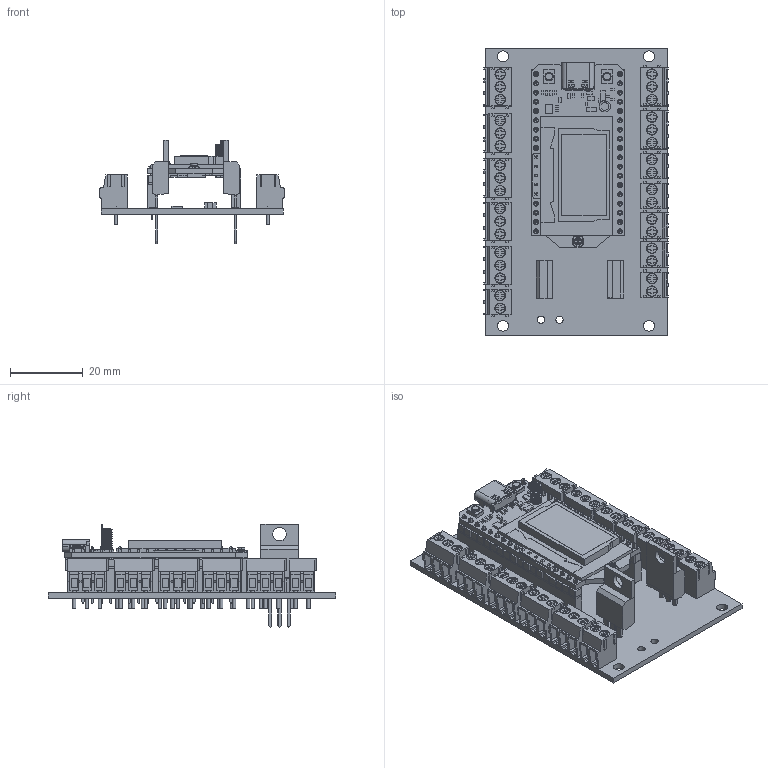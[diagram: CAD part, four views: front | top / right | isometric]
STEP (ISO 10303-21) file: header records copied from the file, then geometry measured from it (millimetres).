
FILE_DESCRIPTION(('KiCad electronic assembly'),'2;1');
FILE_NAME('SubBoard.step','2025-05-11T17:32:42',('Pcbnew'),('Kicad'), 'Open CASCADE STEP processor 7.8','KiCad to STEP converter','Unknown' );
FILE_SCHEMA(('AUTOMOTIVE_DESIGN { 1 0 10303 214 1 1 1 1 }'));
Length unit declared in the file: millimetre
Products named in the file (18): SubBoard 1; WIFI KIT 32 -V3---3DModel-STEP-269445; WIFI KIT 32 (V3); PinSocket_1x18_P2.54mm_Vertical; PinSocket_1x18_P254mm_Vertical; PinHeader_1x18_P2.54mm_Vertical; PinHeader_1x18_P254mm_Vertical; TerminalBlock_Phoenix_PT-1,5-3-3.5-H_1x03_P3.50mm_Horizontal; TerminalBlock_Phoenix_PT_15_3_35_H_1x03_P350mm_Horizontal; Resistor-1206; 1206; TerminalBlock_Phoenix_PT-1,5-2-3.5-H_1x02_P3.50mm_Horizontal; TerminalBlock_Phoenix_PT_15_2_35_H_1x02_P350mm_Horizontal; TO-220-3_Vertical; C_1206; Unnamed; _autosave-SubBoard_PCB
Assembly tree (33 placements, depth 3):
  SubBoard 1
    WIFI KIT 32 -V3---3DModel-STEP-269445
      WIFI KIT 32 (V3)
    PinSocket_1x18_P2.54mm_Vertical  x2
      PinSocket_1x18_P254mm_Vertical
    PinHeader_1x18_P2.54mm_Vertical  x2
      PinHeader_1x18_P254mm_Vertical
    TerminalBlock_Phoenix_PT-1,5-3-3.5-H_1x03_P3.50mm_Horizontal  x7
      TerminalBlock_Phoenix_PT_15_3_35_H_1x03_P350mm_Horizontal
    Resistor-1206  x3
      1206
    TerminalBlock_Phoenix_PT-1,5-2-3.5-H_1x02_P3.50mm_Horizontal  x6
      TerminalBlock_Phoenix_PT_15_2_35_H_1x02_P350mm_Horizontal
    TO-220-3_Vertical  x2
      TO-220-3_Vertical
    C_1206
      Unnamed
    _autosave-SubBoard_PCB
Bounding box: 50.7 x 78.9 x 28.55 mm (x, y, z)
Volume: 18579 mm3; surface area: 33496.6 mm2
Topology: 203 solids, 203 shells, 6010 faces, 15243 edges, 9910 vertices
Faces by surface type: plane 5168, cylinder 790, cone 34, bspline 10, torus 8
Full cylindrical faces by diameter (mm): 0.9 x33, 1.1 x42, 1.4 x33, 2 x2, 2.7 x33, 2.9 x33, 3 x4, 3.735 x2
Entity records: 107946 total; most frequent: CARTESIAN_POINT 18709, ORIENTED_EDGE 15946, DIRECTION 15747, EDGE_CURVE 7973, LINE 6671, VECTOR 6671, VERTEX_POINT 5194, AXIS2_PLACEMENT_3D 4538
